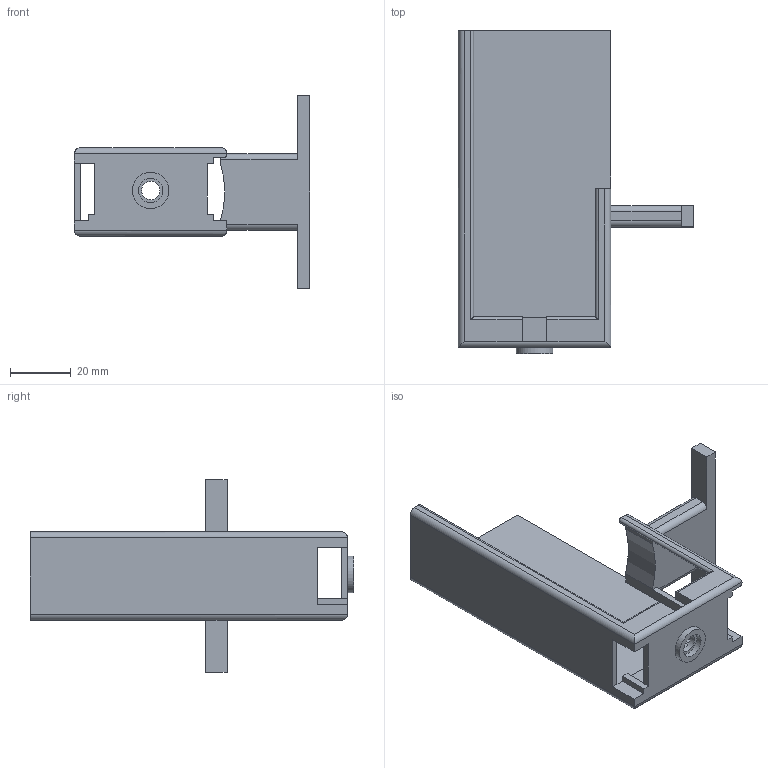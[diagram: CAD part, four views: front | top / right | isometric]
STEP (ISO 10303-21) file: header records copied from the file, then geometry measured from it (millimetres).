
FILE_DESCRIPTION (( 'STEP AP214' ), '1' );
FILE_NAME ('handheld-housing.step', '2026-11-14T03:53:50', ( '' ), ( '' ), 'SwSTEP 2.0', 'SolidWorks 2024', '' );
FILE_SCHEMA (( 'AUTOMOTIVE_DESIGN' ));
Length unit declared in the file: millimetre
Products named in the file (1): handheld-housing
Bounding box: 77.15 x 106 x 63 mm (x, y, z)
Volume: 27246.8 mm3; surface area: 23616.8 mm2
Topology: 1 solids, 1 shells, 76 faces, 216 edges, 140 vertices
Faces by surface type: plane 56, cylinder 20
Full cylindrical faces by diameter (mm): 6 x1, 8 x1, 12 x1
Entity records: 2453 total; most frequent: CARTESIAN_POINT 457, ORIENTED_EDGE 424, DIRECTION 388, EDGE_CURVE 212, LINE 176, VECTOR 176, VERTEX_POINT 139, AXIS2_PLACEMENT_3D 106
